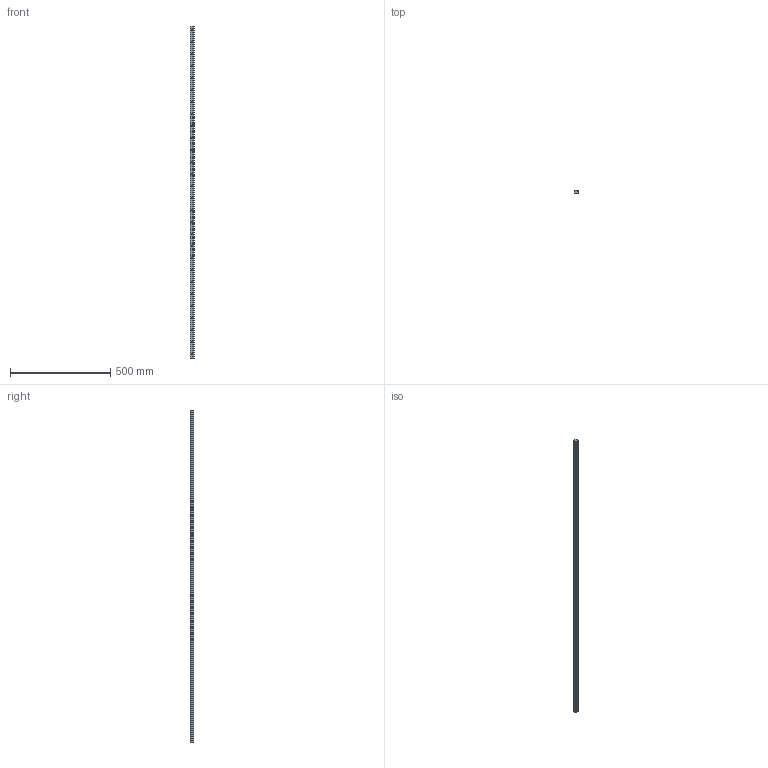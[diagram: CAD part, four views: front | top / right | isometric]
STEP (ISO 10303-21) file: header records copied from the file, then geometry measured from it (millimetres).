
FILE_DESCRIPTION (( 'STEP AP203' ), '1' );
FILE_NAME ('L1016.BL20-1660.step', '2019-06-12T11:50:10', ( '' ), ( '' ), 'SwSTEP 2.0', 'SolidWorks 2017', '' );
FILE_SCHEMA (( 'CONFIG_CONTROL_DESIGN' ));
Length unit declared in the file: millimetre
Products named in the file (1): L1016.BL20-1660
Bounding box: 20 x 16.3 x 1660 mm (x, y, z)
Volume: 461318.4 mm3; surface area: 133824.8 mm2
Topology: 1 solids, 1 shells, 166 faces, 408 edges, 272 vertices
Faces by surface type: cylinder 116, plane 50
Entity records: 5213 total; most frequent: DIRECTION 974, CARTESIAN_POINT 847, ORIENTED_EDGE 816, EDGE_CURVE 408, AXIS2_PLACEMENT_3D 399, VERTEX_POINT 272, EDGE_LOOP 250, CIRCLE 232
